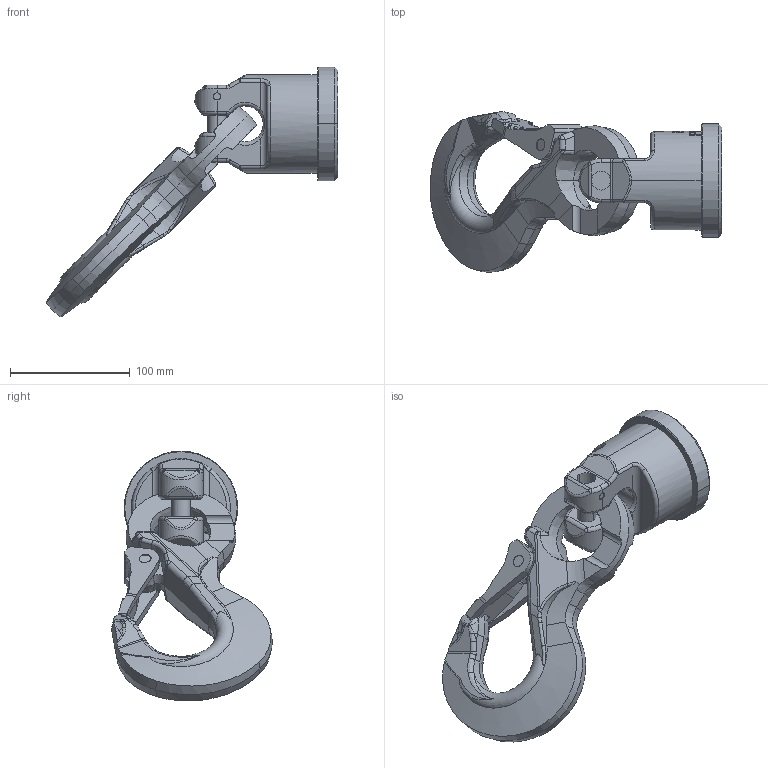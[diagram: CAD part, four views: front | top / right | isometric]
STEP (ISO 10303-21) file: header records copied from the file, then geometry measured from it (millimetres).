
FILE_DESCRIPTION((''),'2;1');
FILE_NAME('001-M31395-P-40_ASM','2018-04-26T',('Anja.Joas'),(''),'PRO/ENGINEER BY PARAMETRIC TECHNOLOGY CORPORATION, 2011490','PRO/ENGINEER BY PARAMETRIC TECHNOLOGY CORPORATION, 2011490','');
FILE_SCHEMA(('CONFIG_CONTROL_DESIGN'));
Length unit declared in the file: millimetre
Products named in the file (6): 001-M31395-P-20; 001-M31395-P-50; 001-M31479-001; 001-M31480-001; 001-M31479-002_ASM; 001-M31395-P-40_ASM
Assembly tree (5 placements, depth 3):
  001-M31395-P-40_ASM
    001-M31395-P-20
    001-M31395-P-50
    001-M31479-002_ASM
      001-M31479-001
      001-M31480-001
Bounding box: 243.97 x 134.49 x 208.97 mm (x, y, z)
Volume: 837698.8 mm3; surface area: 116899.3 mm2
Topology: 4 solids, 4 shells, 717 faces, 1894 edges, 1186 vertices
Faces by surface type: plane 379, cylinder 130, bspline 88, sphere 42, cone 42, torus 36
Entity records: 26813 total; most frequent: CARTESIAN_POINT 10200, ORIENTED_EDGE 3732, DIRECTION 3043, EDGE_CURVE 1866, VERTEX_POINT 1186, AXIS2_PLACEMENT_3D 1110, VECTOR 823, LINE 823
